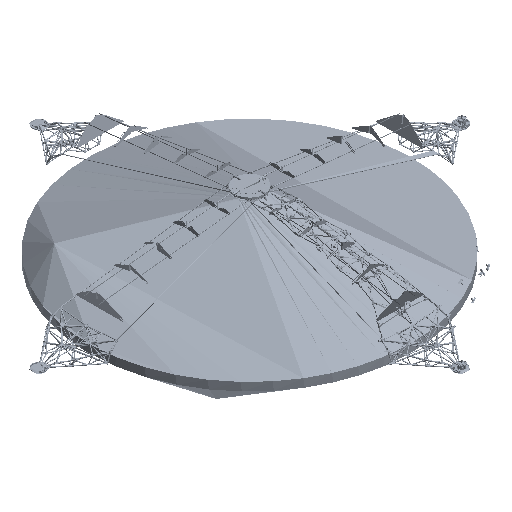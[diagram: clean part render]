
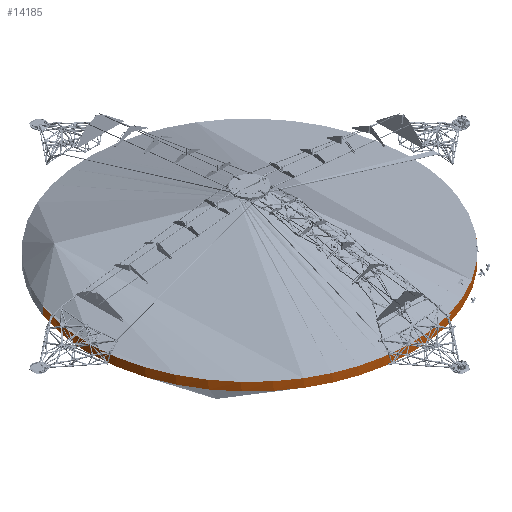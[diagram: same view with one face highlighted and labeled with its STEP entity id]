
A CAD part, isometric view. The second image highlights one B-rep face of the part: STEP entity #14185.
In plain terms, the highlighted free-form (B-spline) face has degree [2, 1] with [5, 2] control points.
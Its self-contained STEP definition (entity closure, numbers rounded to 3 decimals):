
#14185=ADVANCED_FACE('',(#27744),#185640,.T.);
#27744=FACE_OUTER_BOUND('',#40464,.T.);
#40464=EDGE_LOOP('',(#68009,#68010,#68011,#68012));
#68009=ORIENTED_EDGE('',*,*,#115806,.T.);
#68010=ORIENTED_EDGE('',*,*,#115808,.T.);
#68011=ORIENTED_EDGE('',*,*,#115798,.F.);
#68012=ORIENTED_EDGE('',*,*,#115796,.T.);
#115796=EDGE_CURVE('',#169995,#170001,#148745,.T.);
#115798=EDGE_CURVE('',#169995,#169996,#148747,.T.);
#115806=EDGE_CURVE('',#170001,#170002,#148755,.T.);
#115808=EDGE_CURVE('',#170002,#169996,#148757,.T.);
#148745=(
BOUNDED_CURVE()
B_SPLINE_CURVE(2,(#361017,#361018,#361019,#361020,#361021),
 .UNSPECIFIED.,.F.,.F.)
B_SPLINE_CURVE_WITH_KNOTS((3,2,3),(0.,939.684,1879.368),
 .UNSPECIFIED.)
CURVE()
GEOMETRIC_REPRESENTATION_ITEM()
RATIONAL_B_SPLINE_CURVE((1.,0.707,1.,0.707,1.))
REPRESENTATION_ITEM('')
);
#148747=(
BOUNDED_CURVE()
B_SPLINE_CURVE(1,(#361027,#361028),.UNSPECIFIED.,.F.,.F.)
B_SPLINE_CURVE_WITH_KNOTS((2,2),(163.876,185.191),
 .UNSPECIFIED.)
CURVE()
GEOMETRIC_REPRESENTATION_ITEM()
RATIONAL_B_SPLINE_CURVE((1.,1.))
REPRESENTATION_ITEM('')
);
#148755=(
BOUNDED_CURVE()
B_SPLINE_CURVE(1,(#361233,#361234),.UNSPECIFIED.,.F.,.F.)
B_SPLINE_CURVE_WITH_KNOTS((2,2),(163.876,185.191),
 .UNSPECIFIED.)
CURVE()
GEOMETRIC_REPRESENTATION_ITEM()
RATIONAL_B_SPLINE_CURVE((1.,1.))
REPRESENTATION_ITEM('')
);
#148757=(
BOUNDED_CURVE()
B_SPLINE_CURVE(2,(#361240,#361241,#361242,#361243,#361244),
 .UNSPECIFIED.,.F.,.F.)
B_SPLINE_CURVE_WITH_KNOTS((3,2,3),(-1879.368,-939.684,
0.),.UNSPECIFIED.)
CURVE()
GEOMETRIC_REPRESENTATION_ITEM()
RATIONAL_B_SPLINE_CURVE((1.,0.707,1.,0.707,1.))
REPRESENTATION_ITEM('')
);
#169995=VERTEX_POINT('',#360805);
#169996=VERTEX_POINT('',#360806);
#170001=VERTEX_POINT('',#360811);
#170002=VERTEX_POINT('',#360812);
#185640=(
BOUNDED_SURFACE()
B_SPLINE_SURFACE(2,1,((#360781,#360782),(#360783,#360784),(#360785,#360786),
(#360787,#360788),(#360789,#360790)),.UNSPECIFIED.,.F.,.F.,.F.)
B_SPLINE_SURFACE_WITH_KNOTS((3,2,3),(2,2),(0.,939.684,1879.368),
(0.,374.),.UNSPECIFIED.)
GEOMETRIC_REPRESENTATION_ITEM()
RATIONAL_B_SPLINE_SURFACE(((1.,1.),(0.707,0.707),
(1.,1.),(0.707,0.707),(1.,1.)))
REPRESENTATION_ITEM('')
SURFACE()
);
#360781=CARTESIAN_POINT('',(562.,-205.,223.459));
#360782=CARTESIAN_POINT('',(562.,-205.,-316.541));
#360783=CARTESIAN_POINT('',(357.,-767.,223.459));
#360784=CARTESIAN_POINT('',(357.,-767.,-316.541));
#360785=CARTESIAN_POINT('',(-205.,-562.,223.459));
#360786=CARTESIAN_POINT('',(-205.,-562.,-316.541));
#360787=CARTESIAN_POINT('',(-767.,-357.,223.459));
#360788=CARTESIAN_POINT('',(-767.,-357.,-316.541));
#360789=CARTESIAN_POINT('',(-562.,205.,223.459));
#360790=CARTESIAN_POINT('',(-562.,205.,-316.541));
#360805=CARTESIAN_POINT('',(562.,-205.,-13.154));
#360806=CARTESIAN_POINT('',(562.,-205.,-43.929));
#360811=CARTESIAN_POINT('',(-562.,205.,-13.154));
#360812=CARTESIAN_POINT('',(-562.,205.,-43.929));
#361017=CARTESIAN_POINT('',(562.,-205.,-13.154));
#361018=CARTESIAN_POINT('',(357.,-767.,-13.154));
#361019=CARTESIAN_POINT('',(-205.,-562.,-13.154));
#361020=CARTESIAN_POINT('',(-767.,-357.,-13.154));
#361021=CARTESIAN_POINT('',(-562.,205.,-13.154));
#361027=CARTESIAN_POINT('',(562.,-205.,-13.154));
#361028=CARTESIAN_POINT('',(562.,-205.,-43.929));
#361233=CARTESIAN_POINT('',(-562.,205.,-13.154));
#361234=CARTESIAN_POINT('',(-562.,205.,-43.929));
#361240=CARTESIAN_POINT('',(-562.,205.,-43.929));
#361241=CARTESIAN_POINT('',(-767.,-357.,-43.929));
#361242=CARTESIAN_POINT('',(-205.,-562.,-43.929));
#361243=CARTESIAN_POINT('',(357.,-767.,-43.929));
#361244=CARTESIAN_POINT('',(562.,-205.,-43.929));
